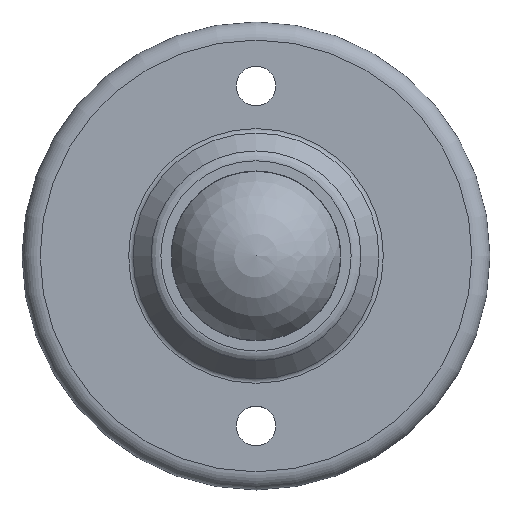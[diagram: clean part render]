
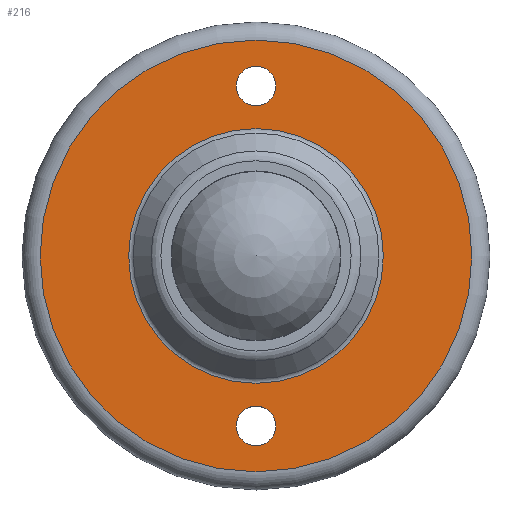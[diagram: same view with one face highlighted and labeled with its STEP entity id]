
A CAD part, top view. The second image highlights one B-rep face of the part: STEP entity #216.
In plain terms, the highlighted planar face has unit normal (0, 0, 1).
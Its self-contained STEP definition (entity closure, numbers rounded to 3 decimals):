
#23=PLANE('',#241);
#30=FACE_BOUND('',#73,.T.);
#31=FACE_BOUND('',#74,.T.);
#32=FACE_BOUND('',#75,.T.);
#51=FACE_OUTER_BOUND('',#72,.T.);
#72=EDGE_LOOP('',(#172));
#73=EDGE_LOOP('',(#173));
#74=EDGE_LOOP('',(#174));
#75=EDGE_LOOP('',(#175));
#109=CIRCLE('',#237,1.75);
#111=CIRCLE('',#240,1.75);
#112=CIRCLE('',#242,19.055);
#113=CIRCLE('',#243,11.241);
#129=VERTEX_POINT('',#358);
#131=VERTEX_POINT('',#363);
#132=VERTEX_POINT('',#366);
#133=VERTEX_POINT('',#368);
#149=EDGE_CURVE('',#129,#129,#109,.T.);
#151=EDGE_CURVE('',#131,#131,#111,.T.);
#152=EDGE_CURVE('',#132,#132,#112,.T.);
#153=EDGE_CURVE('',#133,#133,#113,.T.);
#172=ORIENTED_EDGE('',*,*,#152,.T.);
#173=ORIENTED_EDGE('',*,*,#149,.T.);
#174=ORIENTED_EDGE('',*,*,#151,.T.);
#175=ORIENTED_EDGE('',*,*,#153,.F.);
#216=ADVANCED_FACE('',(#51,#30,#31,#32),#23,.T.);
#237=AXIS2_PLACEMENT_3D('',#359,#280,#281);
#240=AXIS2_PLACEMENT_3D('',#364,#286,#287);
#241=AXIS2_PLACEMENT_3D('',#365,#288,#289);
#242=AXIS2_PLACEMENT_3D('',#367,#290,#291);
#243=AXIS2_PLACEMENT_3D('',#369,#292,#293);
#280=DIRECTION('center_axis',(0.,0.,-1.));
#281=DIRECTION('ref_axis',(1.,0.,0.));
#286=DIRECTION('center_axis',(0.,0.,-1.));
#287=DIRECTION('ref_axis',(1.,0.,0.));
#288=DIRECTION('center_axis',(0.,0.,1.));
#289=DIRECTION('ref_axis',(1.,0.,0.));
#290=DIRECTION('center_axis',(0.,0.,1.));
#291=DIRECTION('ref_axis',(0.,-1.,0.));
#292=DIRECTION('center_axis',(0.,0.,1.));
#293=DIRECTION('ref_axis',(0.,-1.,0.));
#358=CARTESIAN_POINT('',(1.75,-15.,3.3));
#359=CARTESIAN_POINT('Origin',(0.,-15.,3.3));
#363=CARTESIAN_POINT('',(1.75,15.,3.3));
#364=CARTESIAN_POINT('Origin',(0.,15.,3.3));
#365=CARTESIAN_POINT('Origin',(0.,-15.148,3.3));
#366=CARTESIAN_POINT('',(0.,-19.055,3.3));
#367=CARTESIAN_POINT('Origin',(0.,0.,3.3));
#368=CARTESIAN_POINT('',(0.,-11.241,3.3));
#369=CARTESIAN_POINT('Origin',(0.,0.,3.3));
